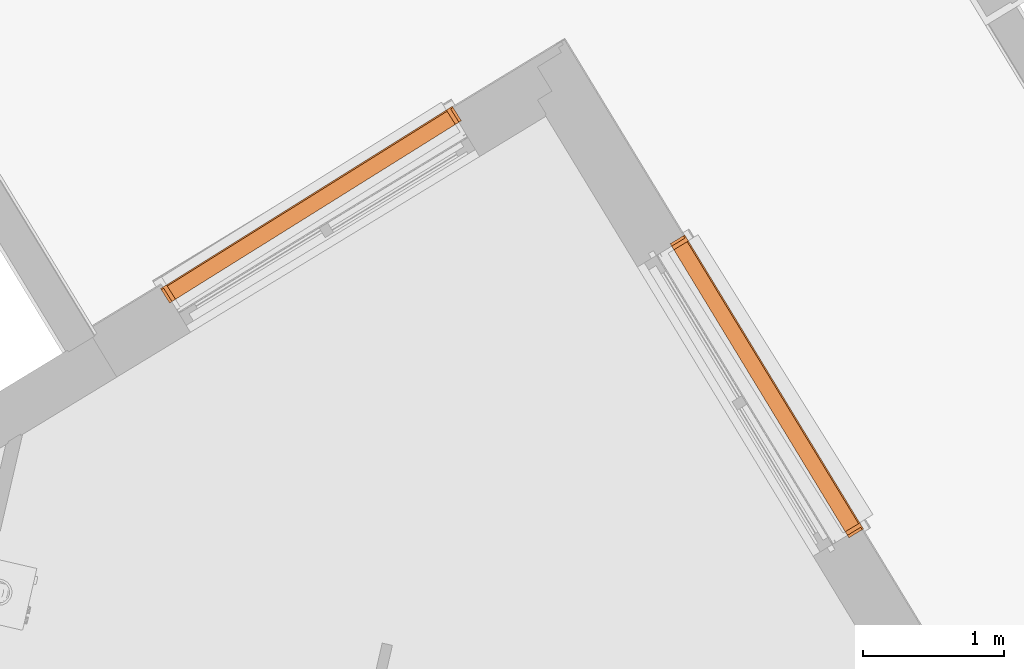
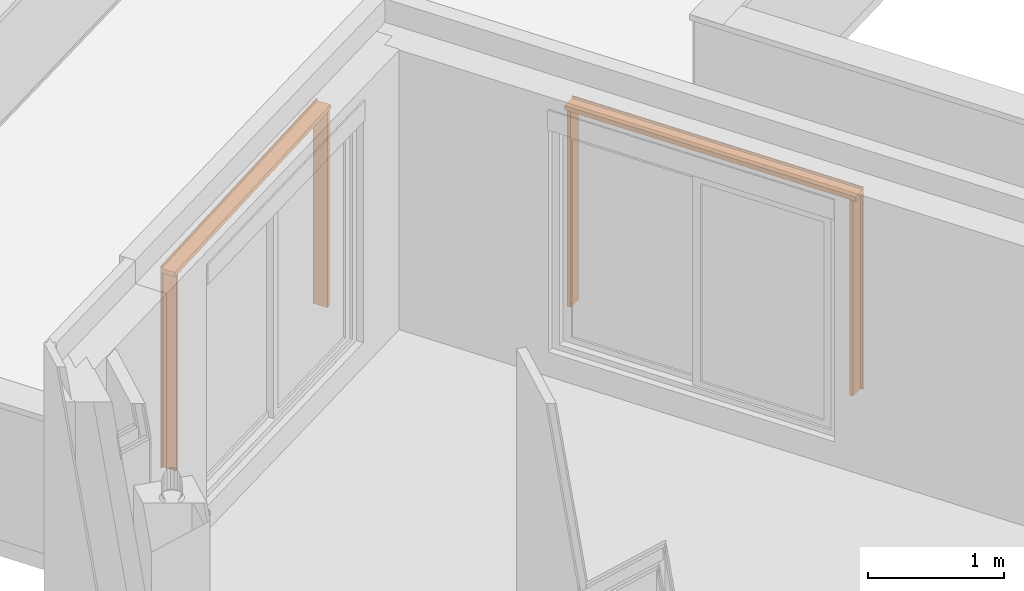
# One storey, part 86 of 91: 6 proxies.
"""IFC2X3 building model written with IfcOpenShell, lengths in metres."""

import ifcopenshell
import ifcopenshell.guid

model = None  # the IFC model being written
_history = None  # IfcOwnerHistory: only IFC2X3 demands one
_inside = {}  # id of a spatial element -> (the spatial element, [elements in it])
_under = {}  # id of a project, library or spatial element -> (it, [spatial elements below it])
_declared = {}  # id of a project -> (the project, [libraries it declares])
_typed = {}  # id of a type object -> (the type object, [elements of that type])
_made_of = {}  # id of a material, layer set ... -> (it, [elements and type objects made of it])


def new_model(schema):
    """Start an empty IFC model of exactly this schema.

    Asked for "IFC4X3", IfcOpenShell would pick the latest addendum, in which some entities
    have other attributes; the version numbers below select the first issue.
    IFC2X3 requires an IfcOwnerHistory on every rooted entity: one is made here for all.
    """
    global model, _history
    if schema == "IFC4X3":
        model = ifcopenshell.file(schema_version=(4, 3, 0, 0))
    else:
        model = ifcopenshell.file(schema=schema)
    _inside.clear()
    _under.clear()
    _declared.clear()
    _typed.clear()
    _made_of.clear()
    _history = None
    if model.schema == "IFC2X3":
        org = make("IfcOrganization", Name="unknown")
        user = make(
            "IfcPersonAndOrganization",
            ThePerson=make("IfcPerson", FamilyName="unknown"),
            TheOrganization=org,
        )
        app = make(
            "IfcApplication",
            ApplicationDeveloper=org,
            Version="unknown",
            ApplicationFullName="unknown",
            ApplicationIdentifier="unknown",
        )
        _history = make(
            "IfcOwnerHistory",
            OwningUser=user,
            OwningApplication=app,
            ChangeAction="ADDED",
            CreationDate=0,
        )
    return model


def make(cls, **values):
    """One entity of the class cls with the attributes given. An attribute that is None is left unset."""
    return model.create_entity(
        cls, **{name: value for name, value in values.items() if value is not None}
    )


def entity(cls, *values):
    """Any entity or typed value of the class cls, its attributes in the order of the schema. None: left unset."""
    e = model.create_entity(cls)
    for i, value in enumerate(values):
        if value is not None:
            e[i] = value
    return e


def rooted(cls, **values):
    """An entity with a GlobalId (a new one), such as an element, a storey or a relation."""
    return make(cls, GlobalId=ifcopenshell.guid.new(), OwnerHistory=_history, **values)


def si_unit(unit_type, name, prefix=None):
    """IfcSIUnit, for example si_unit("LENGTHUNIT", "METRE", prefix="MILLI")."""
    return make("IfcSIUnit", UnitType=unit_type, Prefix=prefix, Name=name)


def converted_unit(unit_type, name, factor, base, dimensions=None, offset=None):
    """IfcConversionBasedUnit, such as the inch: factor (a typed value) times the base unit."""
    return make(
        "IfcConversionBasedUnit"
        if offset is None
        else "IfcConversionBasedUnitWithOffset",
        ConversionOffset=offset,
        Dimensions=None
        if dimensions is None
        else entity("IfcDimensionalExponents", *dimensions),
        UnitType=unit_type,
        Name=name,
        ConversionFactor=make(
            "IfcMeasureWithUnit", ValueComponent=factor, UnitComponent=base
        ),
    )


def derived_unit(unit_type, elements):
    """IfcDerivedUnit: a product of units, each with its exponent."""
    return make(
        "IfcDerivedUnit",
        Elements=[
            make("IfcDerivedUnitElement", Unit=unit, Exponent=power)
            for unit, power in elements
        ],
        UnitType=unit_type,
    )


def money_unit(currency):
    """IfcMonetaryUnit."""
    return make("IfcMonetaryUnit", Currency=currency)


def assignment(units):
    """IfcUnitAssignment: the units of a project."""
    return None if units is None else make("IfcUnitAssignment", Units=units)


def point(xyz):
    """IfcCartesianPoint."""
    return None if xyz is None else make("IfcCartesianPoint", Coordinates=xyz)


def direction(xyz):
    """IfcDirection."""
    return None if xyz is None else make("IfcDirection", DirectionRatios=xyz)


def frame(location, z_axis=None, x_axis=None):
    """IfcAxis2Placement3D, a coordinate frame: its origin and axes. An axis left out is left unset."""
    return make(
        "IfcAxis2Placement3D",
        Location=point(location),
        Axis=direction(z_axis),
        RefDirection=direction(x_axis),
    )


def origin_with_axes():
    """The frame at (0, 0, 0) with the z axis (0, 0, 1) and the x axis (1, 0, 0) written out."""
    return frame((0.0, 0.0, 0.0), z_axis=(0.0, 0.0, 1.0), x_axis=(1.0, 0.0, 0.0))


def place(relative_to, where):
    """IfcLocalPlacement: puts the frame where relative to a parent placement (None: the world)."""
    return make(
        "IfcLocalPlacement", PlacementRelTo=relative_to, RelativePlacement=where
    )


def context(
    kind, dimensions, precision=None, world=None, true_north=None, identifier=None
):
    """IfcGeometricRepresentationContext, for example the 3D "Model" context."""
    return make(
        "IfcGeometricRepresentationContext",
        ContextIdentifier=identifier,
        ContextType=kind,
        CoordinateSpaceDimension=dimensions,
        Precision=precision,
        WorldCoordinateSystem=world,
        TrueNorth=true_north,
    )


def subcontext(parent, identifier, kind, view, scale=None):
    """IfcGeometricRepresentationSubContext, for example "Body" below "Model"."""
    return make(
        "IfcGeometricRepresentationSubContext",
        ContextIdentifier=identifier,
        ContextType=kind,
        ParentContext=parent,
        TargetScale=scale,
        TargetView=view,
    )


def project(units=None, contexts=None):
    """IfcProject with its units and contexts."""
    return rooted(
        "IfcProject",
        Name="project",
        RepresentationContexts=contexts,
        UnitsInContext=assignment(units),
    )


def spatial(cls, under=None, at=None, **own):
    """A site, building, storey or space (cls), placed at a placement, below another one or the project."""
    s = rooted(cls, ObjectPlacement=at, **own)
    if under is not None:
        _under.setdefault(under.id(), (under, []))[1].append(s)
    return s


def faces_of(points, faces, orient=None, outer=None):
    """IfcFace entities. A face is a list of loops; a loop is a list of indices into points, from 0.

    orient and outer hold one flag for each loop. By default every Orientation is true, the
    first loop of a face is its IfcFaceOuterBound and the others are IfcFaceBound.
    """
    made = []
    for i, loops in enumerate(faces):
        bounds = []
        for j, loop in enumerate(loops):
            is_outer = j == 0 if outer is None else outer[i][j]
            bounds.append(
                make(
                    "IfcFaceOuterBound" if is_outer else "IfcFaceBound",
                    Bound=make("IfcPolyLoop", Polygon=[points[k] for k in loop]),
                    Orientation=True if orient is None else orient[i][j],
                )
            )
        made.append(make("IfcFace", Bounds=bounds))
    return made


def faceted_brep(points, faces, orient=None, outer=None, voids=None):
    """IfcFacetedBrep: a solid bounded by flat faces; with voids (closed shells), ...WithVoids."""
    shared = [point(p) for p in points]
    hull = make("IfcClosedShell", CfsFaces=faces_of(shared, faces, orient, outer))
    if voids is None:
        return make("IfcFacetedBrep", Outer=hull)
    return make(
        "IfcFacetedBrepWithVoids",
        Outer=hull,
        Voids=[
            make(cls, CfsFaces=faces_of(shared, fs, o, b)) for cls, fs, o, b in voids
        ],
    )


def shape(context_of_items, identifier, shape_type, items):
    """IfcShapeRepresentation: the items that make up one representation, for example the "Body"."""
    return make(
        "IfcShapeRepresentation",
        ContextOfItems=context_of_items,
        RepresentationIdentifier=identifier,
        RepresentationType=shape_type,
        Items=items,
    )


def source(mapping_origin, context_of_items, identifier, shape_type, items):
    """IfcRepresentationMap: a shape defined once, which mapped items show again and again."""
    return make(
        "IfcRepresentationMap",
        MappingOrigin=mapping_origin,
        MappedRepresentation=shape(context_of_items, identifier, shape_type, items),
    )


def transform(
    local_origin,
    x_axis=None,
    y_axis=None,
    z_axis=None,
    scale=None,
    scale2=None,
    scale3=None,
    uniform=True,
):
    """IfcCartesianTransformationOperator3D, or its non-uniform kind. x_axis, y_axis, z_axis: its Axis1, 2, 3."""
    if uniform:
        return make(
            "IfcCartesianTransformationOperator3D",
            Axis1=direction(x_axis),
            Axis2=direction(y_axis),
            LocalOrigin=point(local_origin),
            Scale=scale,
            Axis3=direction(z_axis),
        )
    return make(
        "IfcCartesianTransformationOperator3DnonUniform",
        Axis1=direction(x_axis),
        Axis2=direction(y_axis),
        LocalOrigin=point(local_origin),
        Scale=scale,
        Axis3=direction(z_axis),
        Scale2=scale2,
        Scale3=scale3,
    )


def mapped(mapping_source, mapping_target):
    """IfcMappedItem: shows the shape of a source again, moved by a transform."""
    return make(
        "IfcMappedItem", MappingSource=mapping_source, MappingTarget=mapping_target
    )


def material(Name=None, Category=None):
    """IfcMaterial."""
    return make("IfcMaterial", Name=Name, Category=Category)


def made_of(thing, what):
    """Note that an element or type object is made of a material, layer set ...; save() writes the relation."""
    if what is not None:
        _made_of.setdefault(what.id(), (what, []))[1].append(thing)
    return thing


def type_object(cls, material=None, **own):
    """A type object (cls), such as IfcWallType, which elements share."""
    return made_of(rooted(cls, **own), material)


def element(
    cls,
    number,
    at=None,
    inside=None,
    cuts=None,
    type_object=None,
    material=None,
    context=None,
    identifier="Body",
    shape_type=None,
    held_by="IfcProductDefinitionShape",
    body=None,
    shapes=None,
    **own,
):
    """One element of the class cls, such as IfcWall. Its Tag is "e" and its number.

    at: its placement. inside: the storey or other place that contains it. cuts: it is an
    opening in that element (IfcRelVoidsElement). A single representation is given by context,
    identifier, shape_type and body (its items); several are given by shapes. held_by: the class
    of the entity that holds the representations. save() writes the other relations.
    """
    e = rooted(cls, Tag="e%d" % number, ObjectPlacement=at, **own)
    if body is not None:
        shapes = [shape(context, identifier, shape_type, body)]
    if shapes is not None:
        e.Representation = make(held_by, Representations=shapes)
    if inside is not None:
        _inside.setdefault(inside.id(), (inside, []))[1].append(e)
    if cuts is not None:
        rooted(
            "IfcRelVoidsElement", RelatingBuildingElement=cuts, RelatedOpeningElement=e
        )
    if type_object is not None:
        _typed.setdefault(type_object.id(), (type_object, []))[1].append(e)
    return made_of(e, material)


def aggregate(whole, parts):
    """IfcRelAggregates: a whole, such as a stair, and the parts it consists of."""
    return rooted("IfcRelAggregates", RelatingObject=whole, RelatedObjects=parts)


def save(model, path):
    """Write the relations noted so far, then the file.

    IfcRelAggregates (storeys below a building ...), IfcRelContainedInSpatialStructure (elements
    in a storey), IfcRelDefinesByType, IfcRelAssociatesMaterial and IfcRelDeclares: one each for
    every whole, place, type object, material and project.
    """
    for whole, parts in _under.values():
        aggregate(whole, parts)
    for where, things in _inside.values():
        rooted(
            "IfcRelContainedInSpatialStructure",
            RelatedElements=things,
            RelatingStructure=where,
        )
    for kind, things in _typed.values():
        rooted("IfcRelDefinesByType", RelatedObjects=things, RelatingType=kind)
    for what, things in _made_of.values():
        rooted("IfcRelAssociatesMaterial", RelatedObjects=things, RelatingMaterial=what)
    for by, libraries in _declared.values():
        rooted("IfcRelDeclares", RelatingContext=by, RelatedDefinitions=libraries)
    model.write(path)


model = new_model("IFC2X3")

# Units and contexts
model_context = context("Model", 3, precision=1e-05, world=origin_with_axes(), true_north=direction((0.0, 1.0)))
body_context = subcontext(model_context, "Body", "Model", "MODEL_VIEW")
ifc_project = project(units=[si_unit("LENGTHUNIT", "METRE"), si_unit("AREAUNIT", "SQUARE_METRE"), si_unit("VOLUMEUNIT", "CUBIC_METRE"), converted_unit("PLANEANGLEUNIT", "DEGREE", entity("IfcPlaneAngleMeasure", 0.0174532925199), si_unit("PLANEANGLEUNIT", "RADIAN"), dimensions=[0, 0, 0, 0, 0, 0, 0]), si_unit("SOLIDANGLEUNIT", "STERADIAN"), money_unit("EUR"), converted_unit("TIMEUNIT", "Year", entity("IfcTimeMeasure", 31556926.0), si_unit("TIMEUNIT", "SECOND"), dimensions=[0, 0, 1, 0, 0, 0, 0]), si_unit("MASSUNIT", "GRAM", prefix="KILO"), si_unit("THERMODYNAMICTEMPERATUREUNIT", "DEGREE_CELSIUS"), si_unit("LUMINOUSINTENSITYUNIT", "LUMEN"), si_unit("ENERGYUNIT", "JOULE", prefix="MEGA"), derived_unit("THERMALCONDUCTANCEUNIT", [(si_unit("POWERUNIT", "WATT"), 1), (si_unit("LENGTHUNIT", "METRE"), -1), (si_unit("THERMODYNAMICTEMPERATUREUNIT", "KELVIN"), -1)]), derived_unit("SPECIFICHEATCAPACITYUNIT", [(si_unit("ENERGYUNIT", "JOULE"), 1), (si_unit("MASSUNIT", "GRAM", prefix="KILO"), -1), (si_unit("THERMODYNAMICTEMPERATUREUNIT", "KELVIN"), -1)]), derived_unit("MASSDENSITYUNIT", [(si_unit("MASSUNIT", "GRAM", prefix="KILO"), 1), (si_unit("VOLUMEUNIT", "CUBIC_METRE"), -1)])], contexts=[model_context])

# Site, building, storey
site_placement = place(None, origin_with_axes())
site = spatial("IfcSite", under=ifc_project, at=site_placement, Name="Site", CompositionType="ELEMENT")
building_placement = place(site_placement, origin_with_axes())
building = spatial("IfcBuilding", under=site, at=building_placement, Name="Bâtiment", CompositionType="ELEMENT")
storey_placement = place(building_placement, frame((0.0, 0.0, 5.44), z_axis=(0.0, 0.0, 1.0), x_axis=(1.0, 0.0, 0.0)))
storey = spatial("IfcBuildingStorey", under=building, at=storey_placement, Name="R+2", CompositionType="ELEMENT", Elevation=5.44)

# Proxies
ifc_material = material(Name="Volume - Etude")
building_element_proxy_type = type_object("IfcBuildingElementProxyType", Name="Volume - Etude", PredefinedType="NOTDEFINED")
shared_shape_1 = source(origin_with_axes(), body_context, "Body", "Brep", [
    faceted_brep([(-0.0774534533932, -0.0178752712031, -0.780796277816), (-0.0774534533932, -0.0178752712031, 0.974203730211), (-0.07070717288, -0.047106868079, 0.974203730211), (-0.07070717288, -0.047106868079, -0.780796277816), (-0.185133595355, -0.0427264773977, -0.780796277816), (-0.185133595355, -0.0427264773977, 0.974203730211), (-0.189631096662, -0.023238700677, 0.974203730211), (-0.199337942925, -0.0254789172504, 0.974203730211), (-0.188094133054, -0.0741982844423, 0.974203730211), (-0.188094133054, -0.0741982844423, -0.780796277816), (-0.199337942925, -0.0254789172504, -0.780796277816), (-0.189631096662, -0.023238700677, -0.780796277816)], [[[0, 1, 2, 3]], [[0, 4, 5, 1]], [[1, 5, 6, 7, 8, 2]], [[2, 8, 9, 3]], [[3, 9, 10, 11, 4, 0]], [[5, 4, 11, 6]], [[11, 10, 7, 6]], [[8, 7, 10, 9]]]),
])
for number, where, z_axis, x_axis, name in (
    (1, (-0.489709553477, 16.8323538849, 1.23579627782), (0.0, 0.0, 1.0), (-0.949450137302, -0.31391788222, 0.0), "Forme-009"),
    (2, (-3.13484997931, 19.7363259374, 1.23579627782), (0.0, 0.0, 1.0), (0.325713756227, -0.945468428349, 0.0), "Forme-009"),
):
    element("IfcBuildingElementProxy", number, at=place(storey_placement, frame(where, z_axis=z_axis, x_axis=x_axis)), inside=storey, type_object=building_element_proxy_type, material=ifc_material, Name=name, context=body_context, shape_type="MappedRepresentation", body=[
        mapped(shared_shape_1, transform((0.0, 0.0, 0.0))),
    ])
shared_shape_2 = source(origin_with_axes(), body_context, "Body", "Brep", [
    faceted_brep([(0.0774534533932, -0.0178752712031, -0.780796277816), (0.07070717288, -0.047106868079, -0.780796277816), (0.07070717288, -0.047106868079, 0.974203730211), (0.0774534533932, -0.0178752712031, 0.974203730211), (0.185133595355, -0.0427264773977, -0.780796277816), (0.189631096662, -0.023238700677, -0.780796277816), (0.199337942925, -0.0254789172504, -0.780796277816), (0.188094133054, -0.0741982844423, -0.780796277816), (0.188094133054, -0.0741982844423, 0.974203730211), (0.199337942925, -0.0254789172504, 0.974203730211), (0.189631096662, -0.023238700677, 0.974203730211), (0.185133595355, -0.0427264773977, 0.974203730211)], [[[0, 1, 2, 3]], [[1, 0, 4, 5, 6, 7]], [[2, 1, 7, 8]], [[3, 2, 8, 9, 10, 11]], [[0, 3, 11, 4]], [[11, 10, 5, 4]], [[5, 10, 9, 6]], [[8, 7, 6, 9]]]),
])
for number, where, z_axis, x_axis, name in (
    (3, (-5.17006725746, 18.4643626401, 1.23579627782), (0.0, 0.0, 1.0), (-0.707107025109, 0.707106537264, 0.0), "Forme-009"),
    (4, (-1.73623678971, 18.8832487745, 1.23579627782), (0.0, 0.0, 1.0), (0.715854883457, 0.698249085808, 0.0), "Forme-009"),
):
    element("IfcBuildingElementProxy", number, at=place(storey_placement, frame(where, z_axis=z_axis, x_axis=x_axis)), inside=storey, type_object=building_element_proxy_type, material=ifc_material, Name=name, context=body_context, shape_type="MappedRepresentation", body=[
        mapped(shared_shape_2, transform((0.0, 0.0, 0.0))),
    ])
shared_shape_3 = source(origin_with_axes(), body_context, "Body", "Brep", [
    faceted_brep([(0.00728521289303, -0.504161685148, 0.0200000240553), (-0.00242163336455, -0.501921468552, 0.0200000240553), (-0.00242160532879, -0.501921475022, 0.0), (-0.110101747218, -0.477070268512, 0.0), (-0.110101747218, -0.477070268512, -0.0399999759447), (0.00728521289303, -0.504161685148, -0.0399999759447), (0.555983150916, 1.87334347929, 0.0200000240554), (0.546276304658, 1.87558369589, 0.0200000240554), (0.546276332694, 1.87558368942, 0.0), (0.438596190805, 1.90043489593, 0.0), (0.438596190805, 1.90043489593, -0.0399999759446), (0.555983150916, 1.87334347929, -0.0399999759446)], [[[0, 1, 2, 3, 4, 5]], [[1, 0, 6, 7]], [[2, 1, 7, 8]], [[3, 2, 8, 9]], [[4, 3, 9, 10]], [[5, 4, 10, 11]], [[0, 5, 11, 6]], [[8, 7, 6, 11, 10, 9]]]),
])
for number, where, z_axis, x_axis, name in (
    (5, (-0.665692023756, 17.2749402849, 2.25000000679), (0.0, 0.0, 1.0), (0.715854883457, 0.698249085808, 0.0), "Forme-010"),
    (6, (-3.57521118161, 19.5548471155, 2.25000000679), (0.0, 0.0, 1.0), (-0.707107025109, 0.707106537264, 0.0), "Forme-010"),
):
    element("IfcBuildingElementProxy", number, at=place(storey_placement, frame(where, z_axis=z_axis, x_axis=x_axis)), inside=storey, type_object=building_element_proxy_type, material=ifc_material, Name=name, context=body_context, shape_type="MappedRepresentation", body=[
        mapped(shared_shape_3, transform((0.0, 0.0, 0.0))),
    ])

save(model, "model.ifc")
